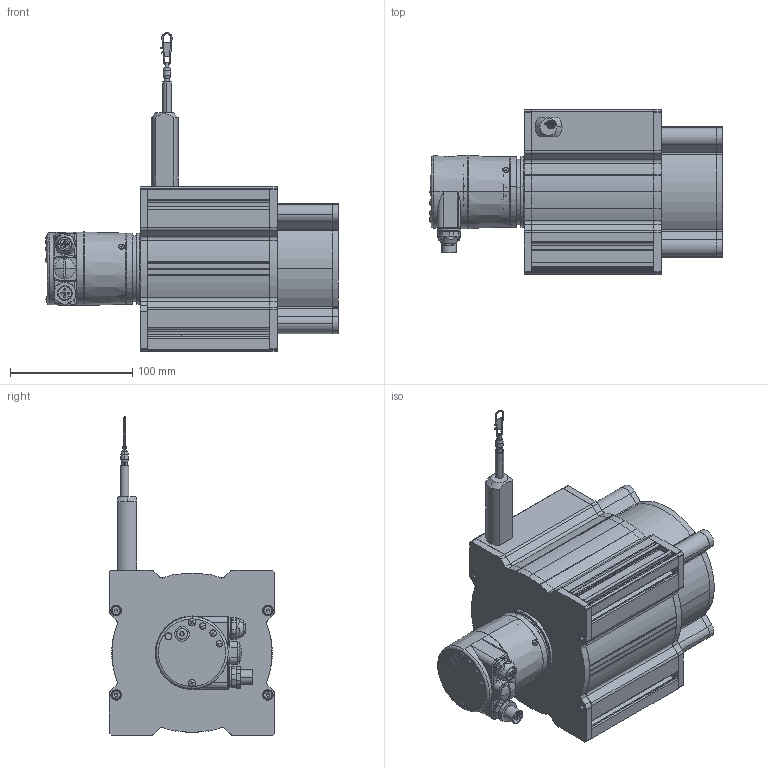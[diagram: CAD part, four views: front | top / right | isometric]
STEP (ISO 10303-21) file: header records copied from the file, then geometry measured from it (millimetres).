
FILE_DESCRIPTION (( 'STEP AP214' ), '1' );
FILE_NAME ('D8.4D1.2000.6822.2113.STEP', '2009-05-12T09:45:57', ( 'admin' ), ( 'Fritz Kübler GmbH' ), 'SwSTEP 2.0', 'SolidWorks 2009', '' );
FILE_SCHEMA (( 'AUTOMOTIVE_DESIGN' ));
Length unit declared in the file: millimetre
Products named in the file (1): D8.4D1.2000.6822.2113
Bounding box: 239.15 x 135 x 260.32 mm (x, y, z)
Volume: 631944.8 mm3; surface area: 353273 mm2
Topology: 38 solids, 38 shells, 2225 faces, 5739 edges, 3631 vertices
Faces by surface type: cylinder 980, plane 692, cone 303, torus 167, bspline 50, sphere 33
Entity records: 97343 total; most frequent: CARTESIAN_POINT 17270, DIRECTION 12223, ORIENTED_EDGE 11298, EDGE_CURVE 5649, AXIS2_PLACEMENT_3D 4843, VERTEX_POINT 3618, CIRCLE 2667, VECTOR 2537
